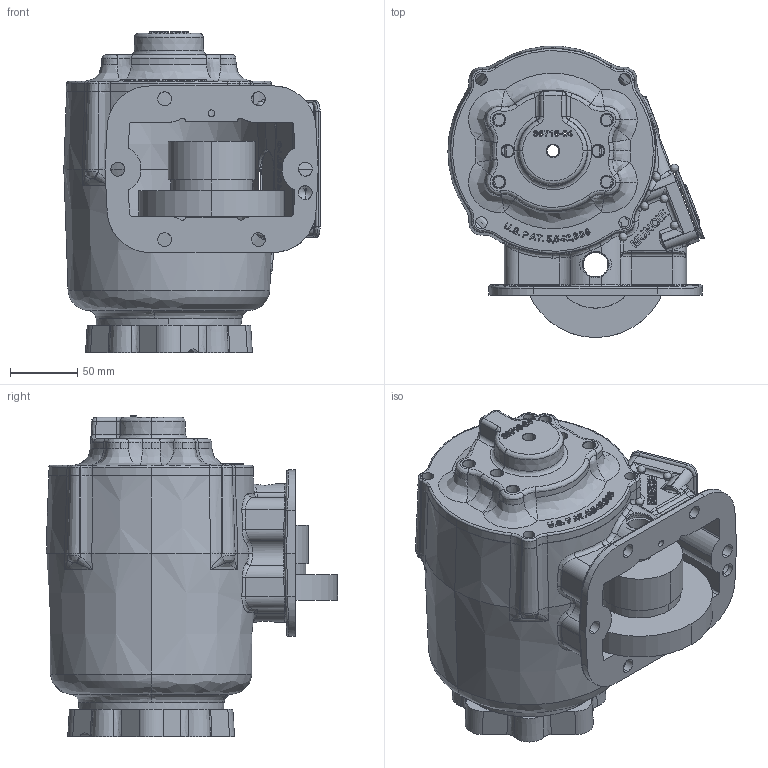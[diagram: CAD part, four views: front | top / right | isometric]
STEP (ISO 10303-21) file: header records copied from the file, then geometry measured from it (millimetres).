
FILE_DESCRIPTION (( 'STEP AP203' ), '1' );
FILE_NAME ('CS6S-XXXXX-X2GX.STEP', '2011-11-01T20:15:17', ( 'User' ), ( 'Muncie Power Products, Inc.' ), 'SwSTEP 2.0', 'SolidWorks 2011', '' );
FILE_SCHEMA (( 'CONFIG_CONTROL_DESIGN' ));
Length unit declared in the file: inch
Products named in the file (1): CS6S-XXXXX-X2GX
Bounding box: 190.82 x 216.75 x 239.33 mm (x, y, z)
Surface area: 299712.1 mm2 (no closed solid volume)
Topology: 0 solids, 18 shells, 1322 faces, 4272 edges, 2813 vertices
Faces by surface type: bspline 679, plane 267, cylinder 245, cone 121, torus 10
Entity records: 107367 total; most frequent: CARTESIAN_POINT 77078, ORIENTED_EDGE 7291, EDGE_CURVE 4204, DIRECTION 3708, VERTEX_POINT 2813, B_SPLINE_CURVE_WITH_KNOTS 2156, EDGE_LOOP 1480, LINE 1460
